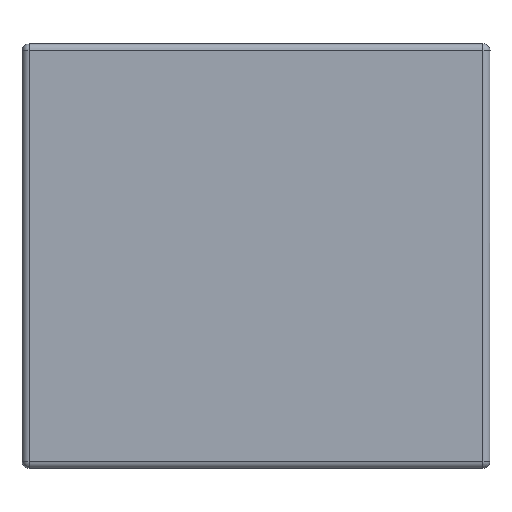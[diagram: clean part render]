
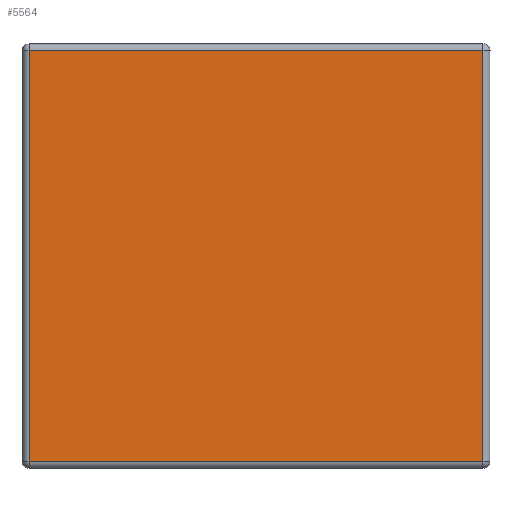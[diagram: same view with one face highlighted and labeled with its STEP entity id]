
A CAD part, front view. The second image highlights one B-rep face of the part: STEP entity #5564.
In plain terms, the highlighted planar face has unit normal (0, -1, 0).
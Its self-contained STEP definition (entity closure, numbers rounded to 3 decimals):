
#226 = FACE_OUTER_BOUND ( 'NONE', #4220, .T. ) ;
#405 = DIRECTION ( 'NONE',  ( 0., 0., 1. ) ) ;
#609 = EDGE_CURVE ( 'NONE', #1398, #5719, #2952, .T. ) ;
#634 = DIRECTION ( 'NONE',  ( -1., 0., 0. ) ) ;
#700 = AXIS2_PLACEMENT_3D ( 'NONE', #1889, #3153, #2585 ) ;
#749 = CARTESIAN_POINT ( 'NONE',  ( -64.823, 0., 31.294 ) ) ;
#988 = LINE ( 'NONE', #3960, #1434 ) ;
#1398 = VERTEX_POINT ( 'NONE', #3223 ) ;
#1434 = VECTOR ( 'NONE', #405, 1000. ) ;
#1537 = CARTESIAN_POINT ( 'NONE',  ( -64.823, 0., 31.294 ) ) ;
#1733 = CARTESIAN_POINT ( 'NONE',  ( 64.823, 0., -85.901 ) ) ;
#1889 = CARTESIAN_POINT ( 'NONE',  ( 0., 0., 0. ) ) ;
#2002 = EDGE_CURVE ( 'NONE', #5719, #3644, #988, .T. ) ;
#2585 = DIRECTION ( 'NONE',  ( 0., 0., -1. ) ) ;
#2952 = LINE ( 'NONE', #4738, #3108 ) ;
#3108 = VECTOR ( 'NONE', #4820, 1000. ) ;
#3153 = DIRECTION ( 'NONE',  ( 0., -1., 0. ) ) ;
#3223 = CARTESIAN_POINT ( 'NONE',  ( -64.823, 0., -85.901 ) ) ;
#3536 = VECTOR ( 'NONE', #7044, 1000. ) ;
#3644 = VERTEX_POINT ( 'NONE', #5609 ) ;
#3661 = ORIENTED_EDGE ( 'NONE', *, *, #609, .T. ) ;
#3953 = VERTEX_POINT ( 'NONE', #1537 ) ;
#3960 = CARTESIAN_POINT ( 'NONE',  ( 64.823, 0., 40.131 ) ) ;
#4205 = ORIENTED_EDGE ( 'NONE', *, *, #2002, .T. ) ;
#4220 = EDGE_LOOP ( 'NONE', ( #4205, #7432, #7098, #3661 ) ) ;
#4738 = CARTESIAN_POINT ( 'NONE',  ( 67., 0., -85.901 ) ) ;
#4820 = DIRECTION ( 'NONE',  ( 1., 0., 0. ) ) ;
#4836 = PLANE ( 'NONE',  #700 ) ;
#5564 = ADVANCED_FACE ( 'NONE', ( #226 ), #4836, .T. ) ;
#5609 = CARTESIAN_POINT ( 'NONE',  ( 64.823, 0., 31.294 ) ) ;
#5719 = VERTEX_POINT ( 'NONE', #1733 ) ;
#5740 = EDGE_CURVE ( 'NONE', #3953, #1398, #6463, .T. ) ;
#5937 = EDGE_CURVE ( 'NONE', #3644, #3953, #5938, .T. ) ;
#5938 = LINE ( 'NONE', #749, #6410 ) ;
#6410 = VECTOR ( 'NONE', #634, 1000. ) ;
#6463 = LINE ( 'NONE', #6969, #3536 ) ;
#6969 = CARTESIAN_POINT ( 'NONE',  ( -64.823, 0., -87.901 ) ) ;
#7044 = DIRECTION ( 'NONE',  ( 0., 0., -1. ) ) ;
#7098 = ORIENTED_EDGE ( 'NONE', *, *, #5740, .T. ) ;
#7432 = ORIENTED_EDGE ( 'NONE', *, *, #5937, .T. ) ;
